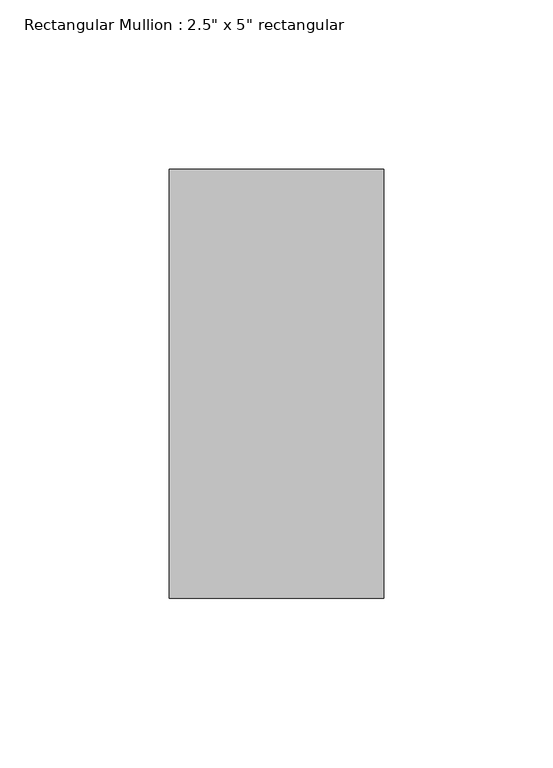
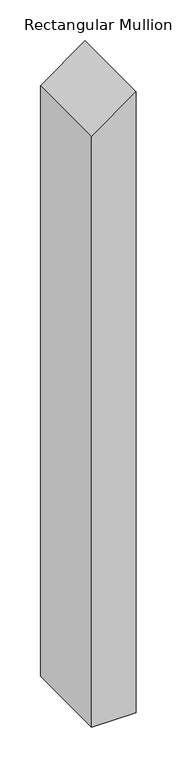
"""IFC4 building model written with IfcOpenShell, lengths in millimetres: member geometry."""

from ifc_helpers import new_model, si_unit, frame, origin, place, context, project, spatial, polyline, outline, extrude, source, transform, mapped, element, save


def member_c840947a(model_context):
    return source(origin(), model_context, "Body", "SweptSolid", [
        extrude(outline(polyline([(0.0, 0.0), (-45.7682105, -63.5), (-936.0125897, -63.5), (-936.0125897, 0.0), (0.0, 0.0)])), frame((0.0, -63.5, 0.0), z_axis=(0.0, 1.0, 0.0), x_axis=(0.0, 0.0, 1.0)), (0.0, 0.0, 1.0), 127.0),
    ])


if __name__ == "__main__":
    model = new_model("IFC4")
    model_context = context("Model", 3, world=origin())
    ifc_project = project(units=[si_unit("LENGTHUNIT", "METRE", prefix="MILLI")], contexts=[model_context])
    site = spatial("IfcSite", under=ifc_project)
    building = spatial("IfcBuilding", under=site)
    placement = place(None, origin())
    member_shape = member_c840947a(model_context)
    element("IfcMember", 1, ObjectType="Rectangular Mullion : 2.5\" x 5\" rectangular", at=placement, inside=building, context=model_context, shape_type="MappedRepresentation", body=[
        mapped(member_shape, transform((0.0, 0.0, 0.0), x_axis=(1.0, 0.0, 0.0), y_axis=(0.0, 1.0, 0.0), z_axis=(0.0, 0.0, 1.0))),
    ])
    save(model, "model.ifc")
